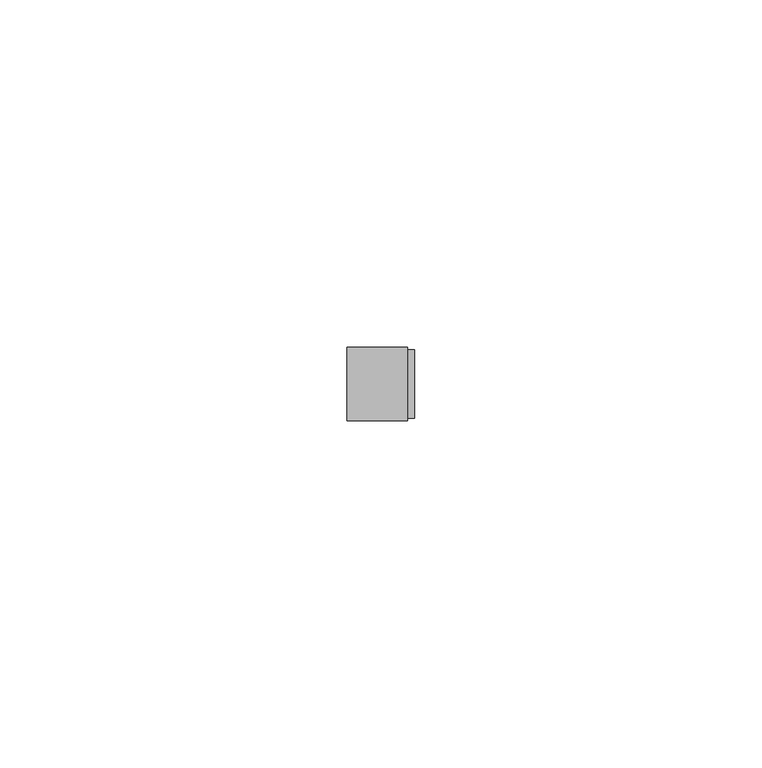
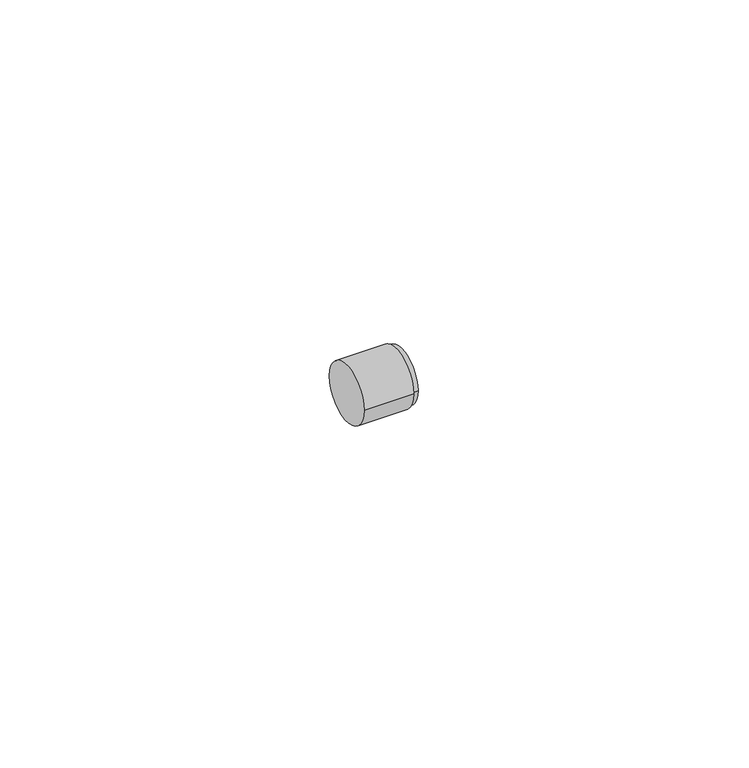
"""IFC4 building model written with IfcOpenShell, lengths in millimetres: pipe fitting geometry, Bucha de redução reta - Soldada - CU : Padrão."""

from ifc_helpers import new_model, si_unit, frame, origin, place, context, project, spatial, circle_curve, source, transform, mapped, element, save
from ifc_brep_helpers import plane_surface, cylinder_surface, advanced_brep


def pipe_fitting_2b321e5a(model_context):
    return source(origin(), model_context, "Body", "AdvancedBrep", [
        advanced_brep(
        [(0.0, -5.2552, 0.0), (0.0, 5.2552, 0.0), (8.6744, -5.2552, 0.0), (8.6744, 5.2552, 0.0), (8.6744, -4.9, 0.0), (8.6744, 4.9, 0.0), (9.6744, -4.9, 0.0), (9.6744, 4.9, 0.0)],
        [
            (0, 1, circle_curve(frame((0.0, 0.0, 0.0), z_axis=(-1.0, 0.0, 0.0), x_axis=(0.0, 1.0, 0.0)), 5.2552)),
            (1, 0, circle_curve(frame((0.0, 0.0, 0.0), z_axis=(-1.0, 0.0, 0.0), x_axis=(0.0, 1.0, 0.0)), 5.2552)),
            (2, 3, circle_curve(frame((8.6744, 0.0, 0.0), z_axis=(1.0, 0.0, 0.0), x_axis=(0.0, 1.0, 0.0)), 5.2552)),
            (3, 2, circle_curve(frame((8.6744, 0.0, 0.0), z_axis=(1.0, 0.0, 0.0), x_axis=(0.0, 1.0, 0.0)), 5.2552)),
            (4, 5, circle_curve(frame((8.6744, 0.0, 0.0), z_axis=(-1.0, 0.0, 0.0), x_axis=(0.0, 1.0, 0.0)), 4.9)),
            (5, 4, circle_curve(frame((8.6744, 0.0, 0.0), z_axis=(-1.0, 0.0, 0.0), x_axis=(0.0, 1.0, 0.0)), 4.9)),
            (0, 2),
            (3, 1),
            (6, 7, circle_curve(frame((9.6744, 0.0, 0.0), z_axis=(1.0, 0.0, 0.0), x_axis=(0.0, 1.0, 0.0)), 4.9)),
            (7, 6, circle_curve(frame((9.6744, 0.0, 0.0), z_axis=(1.0, 0.0, 0.0), x_axis=(0.0, 1.0, 0.0)), 4.9)),
            (7, 5),
            (4, 6),
        ],
        [
            plane_surface(frame((0.0, 0.0, 0.0), z_axis=(-1.0, 0.0, 0.0), x_axis=(0.0, 0.0, 1.0))),
            plane_surface(frame((8.6744, 0.0, 0.0), z_axis=(1.0, 0.0, 0.0), x_axis=(0.0, 0.0, 1.0))),
            cylinder_surface(frame((0.0, 0.0, 0.0), z_axis=(-1.0, 0.0, 0.0), x_axis=(0.0, 1.0, 0.0)), 5.2552),
            plane_surface(frame((9.6744, 0.0, 0.0), z_axis=(1.0, 0.0, 0.0), x_axis=(0.0, 0.0, 1.0))),
            cylinder_surface(frame((8.6744, 0.0, 0.0), z_axis=(-1.0, 0.0, 0.0), x_axis=(0.0, 1.0, 0.0)), 4.9),
        ],
        [
            (0, [[1, 2]]),
            (1, [[3, 4], [5, 6]]),
            (2, [[-1, 7, -4, 8]]),
            (2, [[-2, -8, -3, -7]]),
            (3, [[9, 10]]),
            (4, [[-10, 11, -5, 12]]),
            (4, [[-9, -12, -6, -11]]),
        ],
    ),
    ])


if __name__ == "__main__":
    model = new_model("IFC4")
    model_context = context("Model", 3, world=origin())
    ifc_project = project(units=[si_unit("LENGTHUNIT", "METRE", prefix="MILLI")], contexts=[model_context])
    site = spatial("IfcSite", under=ifc_project)
    building = spatial("IfcBuilding", under=site)
    placement = place(None, origin())
    pipe_fitting_shape = pipe_fitting_2b321e5a(model_context)
    element("IfcPipeFitting", 1, ObjectType="Bucha de redução reta - Soldada - CU : Padrão", at=placement, inside=building, context=model_context, shape_type="MappedRepresentation", body=[
        mapped(pipe_fitting_shape, transform((0.0, 0.0, 0.0), x_axis=(1.0, 0.0, 0.0), y_axis=(0.0, 1.0, 0.0), z_axis=(0.0, 0.0, 1.0))),
    ])
    save(model, "model.ifc")
